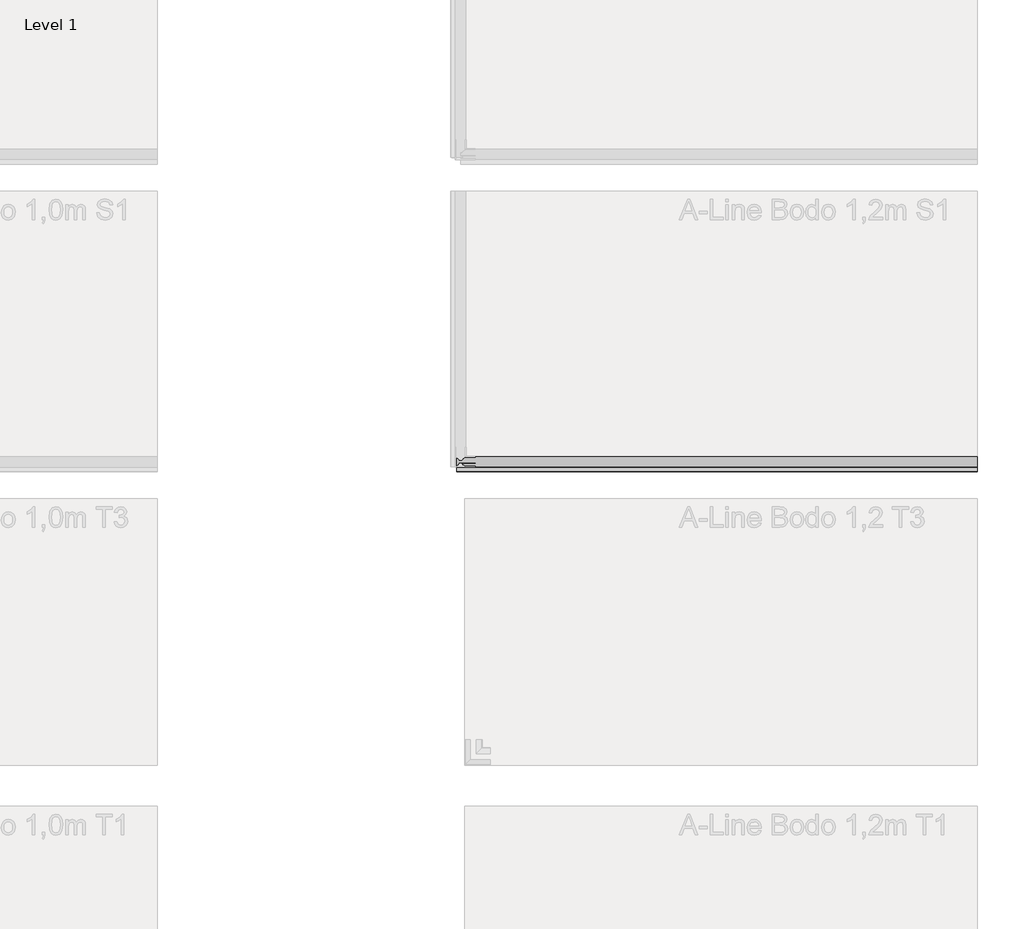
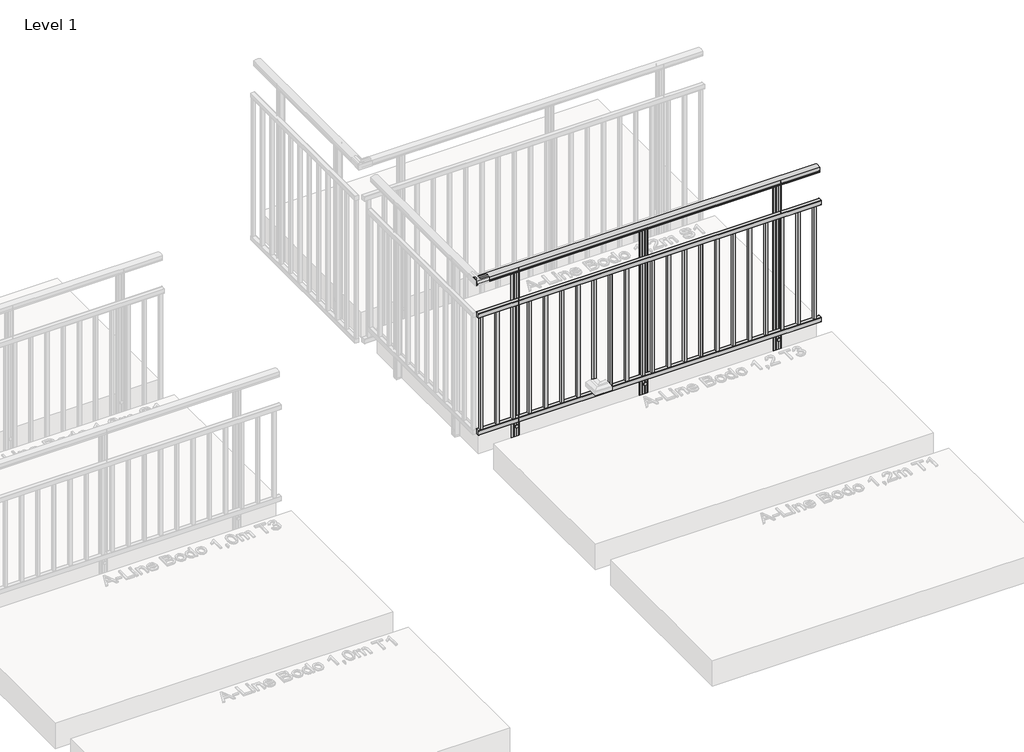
# One storey, part 5 of 66: 1 railing.
"""IFC4 building model written with IfcOpenShell, lengths in millimetres."""

import ifcopenshell
import ifcopenshell.guid

model = None  # the IFC model being written
_history = None  # IfcOwnerHistory: only IFC2X3 demands one
_inside = {}  # id of a spatial element -> (the spatial element, [elements in it])
_under = {}  # id of a project, library or spatial element -> (it, [spatial elements below it])
_declared = {}  # id of a project -> (the project, [libraries it declares])
_typed = {}  # id of a type object -> (the type object, [elements of that type])
_made_of = {}  # id of a material, layer set ... -> (it, [elements and type objects made of it])


def new_model(schema):
    """Start an empty IFC model of exactly this schema.

    Asked for "IFC4X3", IfcOpenShell would pick the latest addendum, in which some entities
    have other attributes; the version numbers below select the first issue.
    IFC2X3 requires an IfcOwnerHistory on every rooted entity: one is made here for all.
    """
    global model, _history
    if schema == "IFC4X3":
        model = ifcopenshell.file(schema_version=(4, 3, 0, 0))
    else:
        model = ifcopenshell.file(schema=schema)
    _inside.clear()
    _under.clear()
    _declared.clear()
    _typed.clear()
    _made_of.clear()
    _history = None
    if model.schema == "IFC2X3":
        org = make("IfcOrganization", Name="unknown")
        user = make(
            "IfcPersonAndOrganization",
            ThePerson=make("IfcPerson", FamilyName="unknown"),
            TheOrganization=org,
        )
        app = make(
            "IfcApplication",
            ApplicationDeveloper=org,
            Version="unknown",
            ApplicationFullName="unknown",
            ApplicationIdentifier="unknown",
        )
        _history = make(
            "IfcOwnerHistory",
            OwningUser=user,
            OwningApplication=app,
            ChangeAction="ADDED",
            CreationDate=0,
        )
    return model


def make(cls, **values):
    """One entity of the class cls with the attributes given. An attribute that is None is left unset."""
    return model.create_entity(
        cls, **{name: value for name, value in values.items() if value is not None}
    )


def rooted(cls, **values):
    """An entity with a GlobalId (a new one), such as an element, a storey or a relation."""
    return make(cls, GlobalId=ifcopenshell.guid.new(), OwnerHistory=_history, **values)


def si_unit(unit_type, name, prefix=None):
    """IfcSIUnit, for example si_unit("LENGTHUNIT", "METRE", prefix="MILLI")."""
    return make("IfcSIUnit", UnitType=unit_type, Prefix=prefix, Name=name)


def assignment(units):
    """IfcUnitAssignment: the units of a project."""
    return None if units is None else make("IfcUnitAssignment", Units=units)


def point(xyz):
    """IfcCartesianPoint."""
    return None if xyz is None else make("IfcCartesianPoint", Coordinates=xyz)


def direction(xyz):
    """IfcDirection."""
    return None if xyz is None else make("IfcDirection", DirectionRatios=xyz)


def frame(location, z_axis=None, x_axis=None):
    """IfcAxis2Placement3D, a coordinate frame: its origin and axes. An axis left out is left unset."""
    return make(
        "IfcAxis2Placement3D",
        Location=point(location),
        Axis=direction(z_axis),
        RefDirection=direction(x_axis),
    )


def frame_2d(location, x_axis=None):
    """IfcAxis2Placement2D, a coordinate frame in the plane: its origin and x axis."""
    return make(
        "IfcAxis2Placement2D", Location=point(location), RefDirection=direction(x_axis)
    )


def origin():
    """The frame at (0, 0, 0) with its axes left unset."""
    return frame((0.0, 0.0, 0.0))


def place(relative_to, where):
    """IfcLocalPlacement: puts the frame where relative to a parent placement (None: the world)."""
    return make(
        "IfcLocalPlacement", PlacementRelTo=relative_to, RelativePlacement=where
    )


def context(
    kind, dimensions, precision=None, world=None, true_north=None, identifier=None
):
    """IfcGeometricRepresentationContext, for example the 3D "Model" context."""
    return make(
        "IfcGeometricRepresentationContext",
        ContextIdentifier=identifier,
        ContextType=kind,
        CoordinateSpaceDimension=dimensions,
        Precision=precision,
        WorldCoordinateSystem=world,
        TrueNorth=true_north,
    )


def project(units=None, contexts=None):
    """IfcProject with its units and contexts."""
    return rooted(
        "IfcProject",
        Name="project",
        RepresentationContexts=contexts,
        UnitsInContext=assignment(units),
    )


def spatial(cls, under=None, at=None, **own):
    """A site, building, storey or space (cls), placed at a placement, below another one or the project."""
    s = rooted(cls, ObjectPlacement=at, **own)
    if under is not None:
        _under.setdefault(under.id(), (under, []))[1].append(s)
    return s


def polyline(points):
    """IfcPolyline through the points."""
    return make("IfcPolyline", Points=[point(p) for p in points])


def circle_curve(where, radius):
    """IfcCircle in the frame where."""
    return make("IfcCircle", Position=where, Radius=radius)


def trimmed(basis, trim1, trim2, sense, master):
    """IfcTrimmedCurve: the piece of a basis curve between two trims."""
    return make(
        "IfcTrimmedCurve",
        BasisCurve=basis,
        Trim1=trim1,
        Trim2=trim2,
        SenseAgreement=sense,
        MasterRepresentation=master,
    )


def segment(curve, same_sense, transition):
    """IfcCompositeCurveSegment."""
    return make(
        "IfcCompositeCurveSegment",
        Transition=transition,
        SameSense=same_sense,
        ParentCurve=curve,
    )


def composite_curve(segments, self_intersect=None):
    """IfcCompositeCurve: segments joined end to end."""
    return make("IfcCompositeCurve", Segments=segments, SelfIntersect=self_intersect)


def outline(outer, holes=None, kind="AREA"):
    """IfcArbitraryClosedProfileDef: a profile drawn as a closed curve; with holes, ...WithVoids."""
    if holes is None:
        return make("IfcArbitraryClosedProfileDef", ProfileType=kind, OuterCurve=outer)
    return make(
        "IfcArbitraryProfileDefWithVoids",
        ProfileType=kind,
        OuterCurve=outer,
        InnerCurves=holes,
    )


def extrude(swept, where, along, depth):
    """IfcExtrudedAreaSolid: the profile swept, set in the frame where, extruded along a direction by depth."""
    return make(
        "IfcExtrudedAreaSolid",
        SweptArea=swept,
        Position=where,
        ExtrudedDirection=direction(along),
        Depth=depth,
    )


def shape(context_of_items, identifier, shape_type, items):
    """IfcShapeRepresentation: the items that make up one representation, for example the "Body"."""
    return make(
        "IfcShapeRepresentation",
        ContextOfItems=context_of_items,
        RepresentationIdentifier=identifier,
        RepresentationType=shape_type,
        Items=items,
    )


def made_of(thing, what):
    """Note that an element or type object is made of a material, layer set ...; save() writes the relation."""
    if what is not None:
        _made_of.setdefault(what.id(), (what, []))[1].append(thing)
    return thing


def element(
    cls,
    number,
    at=None,
    inside=None,
    cuts=None,
    type_object=None,
    material=None,
    context=None,
    identifier="Body",
    shape_type=None,
    held_by="IfcProductDefinitionShape",
    body=None,
    shapes=None,
    **own,
):
    """One element of the class cls, such as IfcWall. Its Tag is "e" and its number.

    at: its placement. inside: the storey or other place that contains it. cuts: it is an
    opening in that element (IfcRelVoidsElement). A single representation is given by context,
    identifier, shape_type and body (its items); several are given by shapes. held_by: the class
    of the entity that holds the representations. save() writes the other relations.
    """
    e = rooted(cls, Tag="e%d" % number, ObjectPlacement=at, **own)
    if body is not None:
        shapes = [shape(context, identifier, shape_type, body)]
    if shapes is not None:
        e.Representation = make(held_by, Representations=shapes)
    if inside is not None:
        _inside.setdefault(inside.id(), (inside, []))[1].append(e)
    if cuts is not None:
        rooted(
            "IfcRelVoidsElement", RelatingBuildingElement=cuts, RelatedOpeningElement=e
        )
    if type_object is not None:
        _typed.setdefault(type_object.id(), (type_object, []))[1].append(e)
    return made_of(e, material)


def aggregate(whole, parts):
    """IfcRelAggregates: a whole, such as a stair, and the parts it consists of."""
    return rooted("IfcRelAggregates", RelatingObject=whole, RelatedObjects=parts)


def save(model, path):
    """Write the relations noted so far, then the file.

    IfcRelAggregates (storeys below a building ...), IfcRelContainedInSpatialStructure (elements
    in a storey), IfcRelDefinesByType, IfcRelAssociatesMaterial and IfcRelDeclares: one each for
    every whole, place, type object, material and project.
    """
    for whole, parts in _under.values():
        aggregate(whole, parts)
    for where, things in _inside.values():
        rooted(
            "IfcRelContainedInSpatialStructure",
            RelatedElements=things,
            RelatingStructure=where,
        )
    for kind, things in _typed.values():
        rooted("IfcRelDefinesByType", RelatedObjects=things, RelatingType=kind)
    for what, things in _made_of.values():
        rooted("IfcRelAssociatesMaterial", RelatedObjects=things, RelatingMaterial=what)
    for by, libraries in _declared.values():
        rooted("IfcRelDeclares", RelatingContext=by, RelatedDefinitions=libraries)
    model.write(path)


model = new_model("IFC4")

# Units and contexts
model_context = context("Model", 3, world=origin())
ifc_project = project(units=[si_unit("LENGTHUNIT", "METRE", prefix="MILLI")], contexts=[model_context])

# Site, building, storey
site = spatial("IfcSite", under=ifc_project)
building = spatial("IfcBuilding", under=site)
storey = spatial("IfcBuildingStorey", under=building, Name="Level 1", Elevation=0.0)

# Railing
placement = place(None, origin())
element("IfcRailing", 1, ObjectType="A-Line Bodo 1,2m S1", at=placement, inside=storey, context=model_context, shape_type="SweptSolid", body=[
    extrude(outline(composite_curve([segment(polyline([(-17565.1717719, 1194.1390059), (-17565.1717719, 1167.1990555), (-17565.7865549, 1166.5842725), (-17565.1717719, 1165.9694895), (-17565.1717719, 1157.2498847), (-17566.9315805, 1157.2498847), (-17566.9315805, 1180.4998829), (-17613.9266266, 1180.4998829), (-17613.9266266, 1157.2498847), (-17615.7315795, 1157.2498847), (-17615.7315795, 1165.8194895), (-17615.1094985, 1166.4415706), (-17615.6914302, 1167.0235023), (-17615.6914302, 1194.1342258)]), True, "CONTINUOUS"), segment(trimmed(circle_curve(frame_2d((-17590.4267322, 1142.6785502)), 57.3235687), [point((-17615.6914302, 1194.1342258))], [point((-17565.1717719, 1194.1390059))], False, "CARTESIAN"), True, "CONTINUOUS")], self_intersect=False)), frame((8464.0547322, 0.0, 0.0), z_axis=(1.0, 0.0, 0.0), x_axis=(0.0, 1.0, 0.0)), (0.0, 0.0, 1.0), 2540.0),
    extrude(outline(composite_curve([segment(trimmed(circle_curve(frame_2d((-17638.2613559, 949.0)), 1.0), [point((-17639.2613559, 949.0))], [point((-17638.2613559, 950.0))], False, "CARTESIAN"), True, "CONTINUOUS"), segment(polyline([(-17638.2613559, 950.0), (-17611.1613559, 950.0)]), True, "CONTINUOUS"), segment(trimmed(circle_curve(frame_2d((-17611.1613559, 949.0)), 1.0), [point((-17611.1613559, 950.0))], [point((-17610.1613559, 949.0))], False, "CARTESIAN"), True, "CONTINUOUS"), segment(polyline([(-17610.1613559, 949.0), (-17610.1613559, 916.8)]), True, "CONTINUOUS"), segment(trimmed(circle_curve(frame_2d((-17611.1613559, 916.8)), 1.0), [point((-17610.1613559, 916.8))], [point((-17611.1613559, 915.8))], False, "CARTESIAN"), True, "CONTINUOUS"), segment(polyline([(-17611.1613559, 915.8), (-17638.2613559, 915.8)]), True, "CONTINUOUS"), segment(trimmed(circle_curve(frame_2d((-17638.2613559, 916.8)), 1.0), [point((-17638.2613559, 915.8))], [point((-17639.2613559, 916.8))], False, "CARTESIAN"), True, "CONTINUOUS"), segment(polyline([(-17639.2613559, 916.8), (-17639.2613559, 949.0)]), True, "CONTINUOUS")], self_intersect=False)), frame((8464.0547322, 0.0, 0.0), z_axis=(1.0, 0.0, 0.0), x_axis=(0.0, 1.0, 0.0)), (0.0, 0.0, 1.0), 2540.0),
    extrude(outline(composite_curve([segment(polyline([(-17638.2613559, 34.2), (-17611.1613559, 34.2)]), True, "CONTINUOUS"), segment(trimmed(circle_curve(frame_2d((-17611.1613559, 33.2)), 1.0), [point((-17611.1613559, 34.2))], [point((-17610.1613559, 33.2))], False, "CARTESIAN"), True, "CONTINUOUS"), segment(polyline([(-17610.1613559, 33.2), (-17610.1613559, 1.0)]), True, "CONTINUOUS"), segment(trimmed(circle_curve(frame_2d((-17611.1613559, 1.0)), 1.0), [point((-17610.1613559, 1.0))], [point((-17611.1613559, 0.0))], False, "CARTESIAN"), True, "CONTINUOUS"), segment(polyline([(-17611.1613559, 0.0), (-17638.2613559, 0.0)]), True, "CONTINUOUS"), segment(trimmed(circle_curve(frame_2d((-17638.2613559, 1.0)), 1.0), [point((-17638.2613559, 0.0))], [point((-17639.2613559, 1.0))], False, "CARTESIAN"), True, "CONTINUOUS"), segment(polyline([(-17639.2613559, 1.0), (-17639.2613559, 33.2)]), True, "CONTINUOUS"), segment(trimmed(circle_curve(frame_2d((-17638.2613559, 33.2)), 1.0), [point((-17639.2613559, 33.2))], [point((-17638.2613559, 34.2))], False, "CARTESIAN"), True, "CONTINUOUS")], self_intersect=False)), frame((8464.0547322, 0.0, 0.0), z_axis=(1.0, 0.0, 0.0), x_axis=(0.0, 1.0, 0.0)), (0.0, 0.0, 1.0), 2540.0),
    extrude(outline(polyline([(10949.0547322, -17634.7113559), (10949.0547322, -17614.7113559), (10969.0547322, -17614.7113559), (10969.0547322, -17634.7113559), (10949.0547322, -17634.7113559)]), holes=[polyline([(10951.0547322, -17632.7113559), (10967.0547322, -17632.7113559), (10967.0547322, -17616.7113559), (10951.0547322, -17616.7113559), (10951.0547322, -17632.7113559)])]), frame((0.0, 0.0, 34.0), z_axis=(0.0, 0.0, 1.0), x_axis=(1.0, 0.0, 0.0)), (0.0, 0.0, 1.0), 882.0),
    extrude(outline(polyline([(10829.0547322, -17634.7113559), (10829.0547322, -17614.7113559), (10849.0547322, -17614.7113559), (10849.0547322, -17634.7113559), (10829.0547322, -17634.7113559)]), holes=[polyline([(10831.0547322, -17632.7113559), (10847.0547322, -17632.7113559), (10847.0547322, -17616.7113559), (10831.0547322, -17616.7113559), (10831.0547322, -17632.7113559)])]), frame((0.0, 0.0, 34.0), z_axis=(0.0, 0.0, 1.0), x_axis=(1.0, 0.0, 0.0)), (0.0, 0.0, 1.0), 882.0),
    extrude(outline(polyline([(10709.0547322, -17634.7113559), (10709.0547322, -17614.7113559), (10729.0547322, -17614.7113559), (10729.0547322, -17634.7113559), (10709.0547322, -17634.7113559)]), holes=[polyline([(10711.0547322, -17632.7113559), (10727.0547322, -17632.7113559), (10727.0547322, -17616.7113559), (10711.0547322, -17616.7113559), (10711.0547322, -17632.7113559)])]), frame((0.0, 0.0, 34.0), z_axis=(0.0, 0.0, 1.0), x_axis=(1.0, 0.0, 0.0)), (0.0, 0.0, 1.0), 882.0),
    extrude(outline(polyline([(10589.0547322, -17634.7113559), (10589.0547322, -17614.7113559), (10609.0547322, -17614.7113559), (10609.0547322, -17634.7113559), (10589.0547322, -17634.7113559)]), holes=[polyline([(10591.0547322, -17632.7113559), (10607.0547322, -17632.7113559), (10607.0547322, -17616.7113559), (10591.0547322, -17616.7113559), (10591.0547322, -17632.7113559)])]), frame((0.0, 0.0, 34.0), z_axis=(0.0, 0.0, 1.0), x_axis=(1.0, 0.0, 0.0)), (0.0, 0.0, 1.0), 882.0),
    extrude(outline(polyline([(10469.0547322, -17634.7113559), (10469.0547322, -17614.7113559), (10489.0547322, -17614.7113559), (10489.0547322, -17634.7113559), (10469.0547322, -17634.7113559)]), holes=[polyline([(10471.0547322, -17632.7113559), (10487.0547322, -17632.7113559), (10487.0547322, -17616.7113559), (10471.0547322, -17616.7113559), (10471.0547322, -17632.7113559)])]), frame((0.0, 0.0, 34.0), z_axis=(0.0, 0.0, 1.0), x_axis=(1.0, 0.0, 0.0)), (0.0, 0.0, 1.0), 882.0),
    extrude(outline(polyline([(10349.0547322, -17634.7113559), (10349.0547322, -17614.7113559), (10369.0547322, -17614.7113559), (10369.0547322, -17634.7113559), (10349.0547322, -17634.7113559)]), holes=[polyline([(10351.0547322, -17632.7113559), (10367.0547322, -17632.7113559), (10367.0547322, -17616.7113559), (10351.0547322, -17616.7113559), (10351.0547322, -17632.7113559)])]), frame((0.0, 0.0, 34.0), z_axis=(0.0, 0.0, 1.0), x_axis=(1.0, 0.0, 0.0)), (0.0, 0.0, 1.0), 882.0),
    extrude(outline(polyline([(10229.0547322, -17634.7113559), (10229.0547322, -17614.7113559), (10249.0547322, -17614.7113559), (10249.0547322, -17634.7113559), (10229.0547322, -17634.7113559)]), holes=[polyline([(10231.0547322, -17632.7113559), (10247.0547322, -17632.7113559), (10247.0547322, -17616.7113559), (10231.0547322, -17616.7113559), (10231.0547322, -17632.7113559)])]), frame((0.0, 0.0, 34.0), z_axis=(0.0, 0.0, 1.0), x_axis=(1.0, 0.0, 0.0)), (0.0, 0.0, 1.0), 882.0),
    extrude(outline(polyline([(10109.0547322, -17634.7113559), (10109.0547322, -17614.7113559), (10129.0547322, -17614.7113559), (10129.0547322, -17634.7113559), (10109.0547322, -17634.7113559)]), holes=[polyline([(10111.0547322, -17632.7113559), (10127.0547322, -17632.7113559), (10127.0547322, -17616.7113559), (10111.0547322, -17616.7113559), (10111.0547322, -17632.7113559)])]), frame((0.0, 0.0, 34.0), z_axis=(0.0, 0.0, 1.0), x_axis=(1.0, 0.0, 0.0)), (0.0, 0.0, 1.0), 882.0),
    extrude(outline(polyline([(9989.0547322, -17634.7113559), (9989.0547322, -17614.7113559), (10009.0547322, -17614.7113559), (10009.0547322, -17634.7113559), (9989.0547322, -17634.7113559)]), holes=[polyline([(9991.0547322, -17632.7113559), (10007.0547322, -17632.7113559), (10007.0547322, -17616.7113559), (9991.0547322, -17616.7113559), (9991.0547322, -17632.7113559)])]), frame((0.0, 0.0, 34.0), z_axis=(0.0, 0.0, 1.0), x_axis=(1.0, 0.0, 0.0)), (0.0, 0.0, 1.0), 882.0),
    extrude(outline(polyline([(9869.0547322, -17634.7113559), (9869.0547322, -17614.7113559), (9889.0547322, -17614.7113559), (9889.0547322, -17634.7113559), (9869.0547322, -17634.7113559)]), holes=[polyline([(9871.0547322, -17632.7113559), (9887.0547322, -17632.7113559), (9887.0547322, -17616.7113559), (9871.0547322, -17616.7113559), (9871.0547322, -17632.7113559)])]), frame((0.0, 0.0, 34.0), z_axis=(0.0, 0.0, 1.0), x_axis=(1.0, 0.0, 0.0)), (0.0, 0.0, 1.0), 882.0),
    extrude(outline(polyline([(9749.0547322, -17634.7113559), (9749.0547322, -17614.7113559), (9769.0547322, -17614.7113559), (9769.0547322, -17634.7113559), (9749.0547322, -17634.7113559)]), holes=[polyline([(9751.0547322, -17632.7113559), (9767.0547322, -17632.7113559), (9767.0547322, -17616.7113559), (9751.0547322, -17616.7113559), (9751.0547322, -17632.7113559)])]), frame((0.0, 0.0, 34.0), z_axis=(0.0, 0.0, 1.0), x_axis=(1.0, 0.0, 0.0)), (0.0, 0.0, 1.0), 882.0),
    extrude(outline(polyline([(9679.0547322, -17634.7113559), (9679.0547322, -17614.7113559), (9699.0547322, -17614.7113559), (9699.0547322, -17634.7113559), (9679.0547322, -17634.7113559)]), holes=[polyline([(9681.0547322, -17632.7113559), (9697.0547322, -17632.7113559), (9697.0547322, -17616.7113559), (9681.0547322, -17616.7113559), (9681.0547322, -17632.7113559)])]), frame((0.0, 0.0, 34.0), z_axis=(0.0, 0.0, 1.0), x_axis=(1.0, 0.0, 0.0)), (0.0, 0.0, 1.0), 882.0),
    extrude(outline(polyline([(9559.0547322, -17634.7113559), (9559.0547322, -17614.7113559), (9579.0547322, -17614.7113559), (9579.0547322, -17634.7113559), (9559.0547322, -17634.7113559)]), holes=[polyline([(9561.0547322, -17632.7113559), (9577.0547322, -17632.7113559), (9577.0547322, -17616.7113559), (9561.0547322, -17616.7113559), (9561.0547322, -17632.7113559)])]), frame((0.0, 0.0, 34.0), z_axis=(0.0, 0.0, 1.0), x_axis=(1.0, 0.0, 0.0)), (0.0, 0.0, 1.0), 882.0),
    extrude(outline(polyline([(9439.0547322, -17634.7113559), (9439.0547322, -17614.7113559), (9459.0547322, -17614.7113559), (9459.0547322, -17634.7113559), (9439.0547322, -17634.7113559)]), holes=[polyline([(9441.0547322, -17632.7113559), (9457.0547322, -17632.7113559), (9457.0547322, -17616.7113559), (9441.0547322, -17616.7113559), (9441.0547322, -17632.7113559)])]), frame((0.0, 0.0, 34.0), z_axis=(0.0, 0.0, 1.0), x_axis=(1.0, 0.0, 0.0)), (0.0, 0.0, 1.0), 882.0),
    extrude(outline(polyline([(9319.0547322, -17634.7113559), (9319.0547322, -17614.7113559), (9339.0547322, -17614.7113559), (9339.0547322, -17634.7113559), (9319.0547322, -17634.7113559)]), holes=[polyline([(9321.0547322, -17632.7113559), (9337.0547322, -17632.7113559), (9337.0547322, -17616.7113559), (9321.0547322, -17616.7113559), (9321.0547322, -17632.7113559)])]), frame((0.0, 0.0, 34.0), z_axis=(0.0, 0.0, 1.0), x_axis=(1.0, 0.0, 0.0)), (0.0, 0.0, 1.0), 882.0),
    extrude(outline(polyline([(9199.0547322, -17634.7113559), (9199.0547322, -17614.7113559), (9219.0547322, -17614.7113559), (9219.0547322, -17634.7113559), (9199.0547322, -17634.7113559)]), holes=[polyline([(9201.0547322, -17632.7113559), (9217.0547322, -17632.7113559), (9217.0547322, -17616.7113559), (9201.0547322, -17616.7113559), (9201.0547322, -17632.7113559)])]), frame((0.0, 0.0, 34.0), z_axis=(0.0, 0.0, 1.0), x_axis=(1.0, 0.0, 0.0)), (0.0, 0.0, 1.0), 882.0),
    extrude(outline(polyline([(9079.0547322, -17634.7113559), (9079.0547322, -17614.7113559), (9099.0547322, -17614.7113559), (9099.0547322, -17634.7113559), (9079.0547322, -17634.7113559)]), holes=[polyline([(9081.0547322, -17632.7113559), (9097.0547322, -17632.7113559), (9097.0547322, -17616.7113559), (9081.0547322, -17616.7113559), (9081.0547322, -17632.7113559)])]), frame((0.0, 0.0, 34.0), z_axis=(0.0, 0.0, 1.0), x_axis=(1.0, 0.0, 0.0)), (0.0, 0.0, 1.0), 882.0),
    extrude(outline(polyline([(8959.0547322, -17634.7113559), (8959.0547322, -17614.7113559), (8979.0547322, -17614.7113559), (8979.0547322, -17634.7113559), (8959.0547322, -17634.7113559)]), holes=[polyline([(8961.0547322, -17632.7113559), (8977.0547322, -17632.7113559), (8977.0547322, -17616.7113559), (8961.0547322, -17616.7113559), (8961.0547322, -17632.7113559)])]), frame((0.0, 0.0, 34.0), z_axis=(0.0, 0.0, 1.0), x_axis=(1.0, 0.0, 0.0)), (0.0, 0.0, 1.0), 882.0),
    extrude(outline(polyline([(8839.0547322, -17634.7113559), (8839.0547322, -17614.7113559), (8859.0547322, -17614.7113559), (8859.0547322, -17634.7113559), (8839.0547322, -17634.7113559)]), holes=[polyline([(8841.0547322, -17632.7113559), (8857.0547322, -17632.7113559), (8857.0547322, -17616.7113559), (8841.0547322, -17616.7113559), (8841.0547322, -17632.7113559)])]), frame((0.0, 0.0, 34.0), z_axis=(0.0, 0.0, 1.0), x_axis=(1.0, 0.0, 0.0)), (0.0, 0.0, 1.0), 882.0),
    extrude(outline(polyline([(8719.0547322, -17634.7113559), (8719.0547322, -17614.7113559), (8739.0547322, -17614.7113559), (8739.0547322, -17634.7113559), (8719.0547322, -17634.7113559)]), holes=[polyline([(8721.0547322, -17632.7113559), (8737.0547322, -17632.7113559), (8737.0547322, -17616.7113559), (8721.0547322, -17616.7113559), (8721.0547322, -17632.7113559)])]), frame((0.0, 0.0, 34.0), z_axis=(0.0, 0.0, 1.0), x_axis=(1.0, 0.0, 0.0)), (0.0, 0.0, 1.0), 882.0),
    extrude(outline(polyline([(8599.0547322, -17634.7113559), (8599.0547322, -17614.7113559), (8619.0547322, -17614.7113559), (8619.0547322, -17634.7113559), (8599.0547322, -17634.7113559)]), holes=[polyline([(8601.0547322, -17632.7113559), (8617.0547322, -17632.7113559), (8617.0547322, -17616.7113559), (8601.0547322, -17616.7113559), (8601.0547322, -17632.7113559)])]), frame((0.0, 0.0, 34.0), z_axis=(0.0, 0.0, 1.0), x_axis=(1.0, 0.0, 0.0)), (0.0, 0.0, 1.0), 882.0),
    extrude(outline(polyline([(8479.0547322, -17634.7113559), (8479.0547322, -17614.7113559), (8499.0547322, -17614.7113559), (8499.0547322, -17634.7113559), (8479.0547322, -17634.7113559)]), holes=[polyline([(8481.0547322, -17632.7113559), (8497.0547322, -17632.7113559), (8497.0547322, -17616.7113559), (8481.0547322, -17616.7113559), (8481.0547322, -17632.7113559)])]), frame((0.0, 0.0, 34.0), z_axis=(0.0, 0.0, 1.0), x_axis=(1.0, 0.0, 0.0)), (0.0, 0.0, 1.0), 882.0),
    extrude(outline(composite_curve([segment(polyline([(9714.8575193, -17569.7113559), (9731.8808192, -17569.7113559)]), True, "CONTINUOUS"), segment(trimmed(circle_curve(frame_2d((9731.8808192, -17571.885269)), 2.173913), [point((9731.8808192, -17569.7113559))], [point((9734.0547322, -17571.885269))], False, "CARTESIAN"), True, "CONTINUOUS"), segment(polyline([(9734.0547322, -17571.885269), (9734.0547322, -17607.5374429)]), True, "CONTINUOUS"), segment(trimmed(circle_curve(frame_2d((9731.8808192, -17607.5374429)), 2.173913), [point((9734.0547322, -17607.5374429))], [point((9731.8808192, -17609.7113559))], False, "CARTESIAN"), True, "CONTINUOUS"), segment(polyline([(9731.8808192, -17609.7113559), (9714.8225694, -17609.676406), (9714.0547322, -17608.9085689), (9713.2868951, -17609.676406), (9696.2286453, -17609.7113559)]), True, "CONTINUOUS"), segment(trimmed(circle_curve(frame_2d((9696.2286453, -17607.5374429)), 2.173913), [point((9696.2286453, -17609.7113559))], [point((9694.0547322, -17607.5374429))], False, "CARTESIAN"), True, "CONTINUOUS"), segment(polyline([(9694.0547322, -17607.5374429), (9694.0547322, -17571.885269)]), True, "CONTINUOUS"), segment(trimmed(circle_curve(frame_2d((9696.2286453, -17571.885269)), 2.173913), [point((9694.0547322, -17571.885269))], [point((9696.2286452, -17569.7113559))], False, "CARTESIAN"), True, "CONTINUOUS"), segment(polyline([(9696.2286452, -17569.7113559), (9713.2868951, -17569.7463058), (9714.0547322, -17570.5141429), (9714.8575193, -17569.7113559)]), True, "CONTINUOUS")], self_intersect=False)), frame((0.0, 0.0, -200.0), z_axis=(0.0, 0.0, 1.0), x_axis=(1.0, 0.0, 0.0)), (0.0, 0.0, 1.0), 10.0),
    extrude(outline(composite_curve([segment(trimmed(circle_curve(frame_2d((0.0, 12.0)), 12.0), [point((0.0, 23.9999999))], [point((0.0, 0.0))], False, "CARTESIAN"), True, "CONTINUOUS"), segment(trimmed(circle_curve(frame_2d((0.0, 12.0)), 12.0), [point((0.0, 0.0))], [point((0.0, 23.9999999))], False, "CARTESIAN"), True, "CONTINUOUS")], self_intersect=False)), frame((9702.0444554, -17612.7751851, -151.0), z_axis=(0.00040291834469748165, 0.9999999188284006, 0.0), x_axis=(0.0, 0.0, 1.0)), (0.0, 0.0, 1.0), 3.0757477),
    extrude(outline(composite_curve([segment(trimmed(circle_curve(frame_2d((0.0, 12.0)), 12.0), [point((0.0, 23.9999999))], [point((0.0, 0.0))], False, "CARTESIAN"), True, "CONTINUOUS"), segment(trimmed(circle_curve(frame_2d((0.0, 12.0)), 12.0), [point((0.0, 0.0))], [point((0.0, 23.9999999))], False, "CARTESIAN"), True, "CONTINUOUS")], self_intersect=False)), frame((9702.0444554, -17612.7751851, -50.0), z_axis=(0.00040291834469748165, 0.9999999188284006, 0.0), x_axis=(0.0, 0.0, 1.0)), (0.0, 0.0, 1.0), 3.0757477),
    extrude(outline(composite_curve([segment(trimmed(circle_curve(frame_2d((9696.2286453, -17571.885269)), 2.173913), [point((9694.0547322, -17571.885269))], [point((9696.2286453, -17569.7113559))], False, "CARTESIAN"), True, "CONTINUOUS"), segment(polyline([(9696.2286453, -17569.7113559), (9713.2868951, -17569.7463058), (9714.185167, -17570.1143102), (9714.9530042, -17569.7113559), (9731.8808192, -17569.7113559)]), True, "CONTINUOUS"), segment(trimmed(circle_curve(frame_2d((9731.8808192, -17571.885269)), 2.173913), [point((9731.8808192, -17569.7113559))], [point((9734.0547322, -17571.885269))], False, "CARTESIAN"), True, "CONTINUOUS"), segment(polyline([(9734.0547322, -17571.885269), (9734.0547322, -17607.5374429)]), True, "CONTINUOUS"), segment(trimmed(circle_curve(frame_2d((9731.8808192, -17607.5374429)), 2.173913), [point((9734.0547322, -17607.5374429))], [point((9731.8808192, -17609.7113559))], False, "CARTESIAN"), True, "CONTINUOUS"), segment(polyline([(9731.8808192, -17609.7113559), (9714.8225694, -17609.676406), (9714.0547322, -17608.9085689), (9713.2868951, -17609.676406), (9696.2286453, -17609.7113559)]), True, "CONTINUOUS"), segment(trimmed(circle_curve(frame_2d((9696.2286453, -17607.5374429)), 2.173913), [point((9696.2286453, -17609.7113559))], [point((9694.0547322, -17607.5374429))], False, "CARTESIAN"), True, "CONTINUOUS"), segment(polyline([(9694.0547322, -17607.5374429), (9694.0547322, -17571.885269)]), True, "CONTINUOUS")], self_intersect=False), holes=[composite_curve([segment(polyline([(9697.5329931, -17574.059182), (9697.5329931, -17605.3635298)]), True, "CONTINUOUS"), segment(trimmed(circle_curve(frame_2d((9698.4025583, -17605.3635298)), 0.8695652), [point((9697.5329931, -17605.3635298))], [point((9698.4025583, -17606.233095))], True, "CARTESIAN"), True, "CONTINUOUS"), segment(polyline([(9698.4025583, -17606.233095), (9729.7069062, -17606.233095)]), True, "CONTINUOUS"), segment(trimmed(circle_curve(frame_2d((9729.7069062, -17605.3635298)), 0.8695652), [point((9729.7069062, -17606.233095))], [point((9730.5764714, -17605.3635298))], True, "CARTESIAN"), True, "CONTINUOUS"), segment(polyline([(9730.5764714, -17605.3635298), (9730.5764714, -17574.059182)]), True, "CONTINUOUS"), segment(trimmed(circle_curve(frame_2d((9729.7069062, -17574.059182)), 0.8695652), [point((9730.5764714, -17574.059182))], [point((9729.7069062, -17573.1896168))], True, "CARTESIAN"), True, "CONTINUOUS"), segment(polyline([(9729.7069062, -17573.1896168), (9698.4025583, -17573.1896168)]), True, "CONTINUOUS"), segment(trimmed(circle_curve(frame_2d((9698.4025583, -17574.059182)), 0.8695652), [point((9698.4025583, -17573.1896168))], [point((9697.5329931, -17574.059182))], True, "CARTESIAN"), True, "CONTINUOUS")], self_intersect=False)]), frame((0.0, 0.0, -190.0), z_axis=(0.0, 0.0, 1.0), x_axis=(1.0, 0.0, 0.0)), (0.0, 0.0, 1.0), 1370.0),
    extrude(outline(composite_curve([segment(polyline([(10704.8575193, -17569.7113559), (10721.8808192, -17569.7113559)]), True, "CONTINUOUS"), segment(trimmed(circle_curve(frame_2d((10721.8808192, -17571.885269)), 2.173913), [point((10721.8808192, -17569.7113559))], [point((10724.0547322, -17571.885269))], False, "CARTESIAN"), True, "CONTINUOUS"), segment(polyline([(10724.0547322, -17571.885269), (10724.0547322, -17607.5374429)]), True, "CONTINUOUS"), segment(trimmed(circle_curve(frame_2d((10721.8808192, -17607.5374429)), 2.173913), [point((10724.0547322, -17607.5374429))], [point((10721.8808192, -17609.7113559))], False, "CARTESIAN"), True, "CONTINUOUS"), segment(polyline([(10721.8808192, -17609.7113559), (10704.8225694, -17609.676406), (10704.0547322, -17608.9085689), (10703.2868951, -17609.676406), (10686.2286453, -17609.7113559)]), True, "CONTINUOUS"), segment(trimmed(circle_curve(frame_2d((10686.2286453, -17607.5374429)), 2.173913), [point((10686.2286453, -17609.7113559))], [point((10684.0547322, -17607.5374429))], False, "CARTESIAN"), True, "CONTINUOUS"), segment(polyline([(10684.0547322, -17607.5374429), (10684.0547322, -17571.885269)]), True, "CONTINUOUS"), segment(trimmed(circle_curve(frame_2d((10686.2286453, -17571.885269)), 2.173913), [point((10684.0547322, -17571.885269))], [point((10686.2286452, -17569.7113559))], False, "CARTESIAN"), True, "CONTINUOUS"), segment(polyline([(10686.2286452, -17569.7113559), (10703.2868951, -17569.7463058), (10704.0547322, -17570.5141429), (10704.8575193, -17569.7113559)]), True, "CONTINUOUS")], self_intersect=False)), frame((0.0, 0.0, -200.0), z_axis=(0.0, 0.0, 1.0), x_axis=(1.0, 0.0, 0.0)), (0.0, 0.0, 1.0), 10.0),
    extrude(outline(composite_curve([segment(trimmed(circle_curve(frame_2d((0.0, 12.0)), 12.0), [point((0.0, 23.9999999))], [point((0.0, 0.0))], False, "CARTESIAN"), True, "CONTINUOUS"), segment(trimmed(circle_curve(frame_2d((0.0, 12.0)), 12.0), [point((0.0, 0.0))], [point((0.0, 23.9999999))], False, "CARTESIAN"), True, "CONTINUOUS")], self_intersect=False)), frame((10692.0444554, -17612.7751851, -151.0), z_axis=(0.00040291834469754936, 0.9999999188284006, 0.0), x_axis=(0.0, 0.0, 1.0)), (0.0, 0.0, 1.0), 3.0757477),
    extrude(outline(composite_curve([segment(trimmed(circle_curve(frame_2d((0.0, 12.0)), 12.0), [point((0.0, 23.9999999))], [point((0.0, 0.0))], False, "CARTESIAN"), True, "CONTINUOUS"), segment(trimmed(circle_curve(frame_2d((0.0, 12.0)), 12.0), [point((0.0, 0.0))], [point((0.0, 23.9999999))], False, "CARTESIAN"), True, "CONTINUOUS")], self_intersect=False)), frame((10692.0444554, -17612.7751851, -50.0), z_axis=(0.00040291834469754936, 0.9999999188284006, 0.0), x_axis=(0.0, 0.0, 1.0)), (0.0, 0.0, 1.0), 3.0757477),
    extrude(outline(composite_curve([segment(trimmed(circle_curve(frame_2d((10686.2286453, -17571.885269)), 2.173913), [point((10684.0547322, -17571.885269))], [point((10686.2286453, -17569.7113559))], False, "CARTESIAN"), True, "CONTINUOUS"), segment(polyline([(10686.2286453, -17569.7113559), (10703.2868951, -17569.7463058), (10704.185167, -17570.1143102), (10704.9530042, -17569.7113559), (10721.8808192, -17569.7113559)]), True, "CONTINUOUS"), segment(trimmed(circle_curve(frame_2d((10721.8808192, -17571.885269)), 2.173913), [point((10721.8808192, -17569.7113559))], [point((10724.0547322, -17571.885269))], False, "CARTESIAN"), True, "CONTINUOUS"), segment(polyline([(10724.0547322, -17571.885269), (10724.0547322, -17607.5374429)]), True, "CONTINUOUS"), segment(trimmed(circle_curve(frame_2d((10721.8808192, -17607.5374429)), 2.173913), [point((10724.0547322, -17607.5374429))], [point((10721.8808192, -17609.7113559))], False, "CARTESIAN"), True, "CONTINUOUS"), segment(polyline([(10721.8808192, -17609.7113559), (10704.8225694, -17609.676406), (10704.0547322, -17608.9085689), (10703.2868951, -17609.676406), (10686.2286453, -17609.7113559)]), True, "CONTINUOUS"), segment(trimmed(circle_curve(frame_2d((10686.2286453, -17607.5374429)), 2.173913), [point((10686.2286453, -17609.7113559))], [point((10684.0547322, -17607.5374429))], False, "CARTESIAN"), True, "CONTINUOUS"), segment(polyline([(10684.0547322, -17607.5374429), (10684.0547322, -17571.885269)]), True, "CONTINUOUS")], self_intersect=False), holes=[composite_curve([segment(polyline([(10687.5329931, -17574.059182), (10687.5329931, -17605.3635298)]), True, "CONTINUOUS"), segment(trimmed(circle_curve(frame_2d((10688.4025583, -17605.3635298)), 0.8695652), [point((10687.5329931, -17605.3635298))], [point((10688.4025583, -17606.233095))], True, "CARTESIAN"), True, "CONTINUOUS"), segment(polyline([(10688.4025583, -17606.233095), (10719.7069062, -17606.233095)]), True, "CONTINUOUS"), segment(trimmed(circle_curve(frame_2d((10719.7069062, -17605.3635298)), 0.8695652), [point((10719.7069062, -17606.233095))], [point((10720.5764714, -17605.3635298))], True, "CARTESIAN"), True, "CONTINUOUS"), segment(polyline([(10720.5764714, -17605.3635298), (10720.5764714, -17574.059182)]), True, "CONTINUOUS"), segment(trimmed(circle_curve(frame_2d((10719.7069062, -17574.059182)), 0.8695652), [point((10720.5764714, -17574.059182))], [point((10719.7069062, -17573.1896168))], True, "CARTESIAN"), True, "CONTINUOUS"), segment(polyline([(10719.7069062, -17573.1896168), (10688.4025583, -17573.1896168)]), True, "CONTINUOUS"), segment(trimmed(circle_curve(frame_2d((10688.4025583, -17574.059182)), 0.8695652), [point((10688.4025583, -17573.1896168))], [point((10687.5329931, -17574.059182))], True, "CARTESIAN"), True, "CONTINUOUS")], self_intersect=False)]), frame((0.0, 0.0, -190.0), z_axis=(0.0, 0.0, 1.0), x_axis=(1.0, 0.0, 0.0)), (0.0, 0.0, 1.0), 1371.0),
    extrude(outline(composite_curve([segment(polyline([(8764.8575193, -17569.7113559), (8781.8808192, -17569.7113559)]), True, "CONTINUOUS"), segment(trimmed(circle_curve(frame_2d((8781.8808192, -17571.885269)), 2.173913), [point((8781.8808192, -17569.7113559))], [point((8784.0547322, -17571.885269))], False, "CARTESIAN"), True, "CONTINUOUS"), segment(polyline([(8784.0547322, -17571.885269), (8784.0547322, -17607.5374429)]), True, "CONTINUOUS"), segment(trimmed(circle_curve(frame_2d((8781.8808192, -17607.5374429)), 2.173913), [point((8784.0547322, -17607.5374429))], [point((8781.8808192, -17609.7113559))], False, "CARTESIAN"), True, "CONTINUOUS"), segment(polyline([(8781.8808192, -17609.7113559), (8764.8225694, -17609.676406), (8764.0547322, -17608.9085689), (8763.2868951, -17609.676406), (8746.2286453, -17609.7113559)]), True, "CONTINUOUS"), segment(trimmed(circle_curve(frame_2d((8746.2286453, -17607.5374429)), 2.173913), [point((8746.2286453, -17609.7113559))], [point((8744.0547322, -17607.5374429))], False, "CARTESIAN"), True, "CONTINUOUS"), segment(polyline([(8744.0547322, -17607.5374429), (8744.0547322, -17571.885269)]), True, "CONTINUOUS"), segment(trimmed(circle_curve(frame_2d((8746.2286453, -17571.885269)), 2.173913), [point((8744.0547322, -17571.885269))], [point((8746.2286452, -17569.7113559))], False, "CARTESIAN"), True, "CONTINUOUS"), segment(polyline([(8746.2286452, -17569.7113559), (8763.2868951, -17569.7463058), (8764.0547322, -17570.5141429), (8764.8575193, -17569.7113559)]), True, "CONTINUOUS")], self_intersect=False)), frame((0.0, 0.0, -200.0), z_axis=(0.0, 0.0, 1.0), x_axis=(1.0, 0.0, 0.0)), (0.0, 0.0, 1.0), 10.0),
    extrude(outline(composite_curve([segment(trimmed(circle_curve(frame_2d((0.0, 12.0)), 12.0), [point((0.0, 23.9999999))], [point((0.0, 0.0))], False, "CARTESIAN"), True, "CONTINUOUS"), segment(trimmed(circle_curve(frame_2d((0.0, 12.0)), 12.0), [point((0.0, 0.0))], [point((0.0, 23.9999999))], False, "CARTESIAN"), True, "CONTINUOUS")], self_intersect=False)), frame((8752.0444554, -17612.7751851, -151.0), z_axis=(0.00040291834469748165, 0.9999999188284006, 0.0), x_axis=(0.0, 0.0, 1.0)), (0.0, 0.0, 1.0), 3.0757477),
    extrude(outline(composite_curve([segment(trimmed(circle_curve(frame_2d((0.0, 12.0)), 12.0), [point((0.0, 23.9999999))], [point((0.0, 0.0))], False, "CARTESIAN"), True, "CONTINUOUS"), segment(trimmed(circle_curve(frame_2d((0.0, 12.0)), 12.0), [point((0.0, 0.0))], [point((0.0, 23.9999999))], False, "CARTESIAN"), True, "CONTINUOUS")], self_intersect=False)), frame((8752.0444554, -17612.7751851, -50.0), z_axis=(0.00040291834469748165, 0.9999999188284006, 0.0), x_axis=(0.0, 0.0, 1.0)), (0.0, 0.0, 1.0), 3.0757477),
    extrude(outline(composite_curve([segment(trimmed(circle_curve(frame_2d((8746.2286453, -17571.885269)), 2.173913), [point((8744.0547322, -17571.885269))], [point((8746.2286453, -17569.7113559))], False, "CARTESIAN"), True, "CONTINUOUS"), segment(polyline([(8746.2286453, -17569.7113559), (8763.2868951, -17569.7463058), (8764.185167, -17570.1143102), (8764.9530042, -17569.7113559), (8781.8808192, -17569.7113559)]), True, "CONTINUOUS"), segment(trimmed(circle_curve(frame_2d((8781.8808192, -17571.885269)), 2.173913), [point((8781.8808192, -17569.7113559))], [point((8784.0547322, -17571.885269))], False, "CARTESIAN"), True, "CONTINUOUS"), segment(polyline([(8784.0547322, -17571.885269), (8784.0547322, -17607.5374429)]), True, "CONTINUOUS"), segment(trimmed(circle_curve(frame_2d((8781.8808192, -17607.5374429)), 2.173913), [point((8784.0547322, -17607.5374429))], [point((8781.8808192, -17609.7113559))], False, "CARTESIAN"), True, "CONTINUOUS"), segment(polyline([(8781.8808192, -17609.7113559), (8764.8225694, -17609.676406), (8764.0547322, -17608.9085689), (8763.2868951, -17609.676406), (8746.2286453, -17609.7113559)]), True, "CONTINUOUS"), segment(trimmed(circle_curve(frame_2d((8746.2286453, -17607.5374429)), 2.173913), [point((8746.2286453, -17609.7113559))], [point((8744.0547322, -17607.5374429))], False, "CARTESIAN"), True, "CONTINUOUS"), segment(polyline([(8744.0547322, -17607.5374429), (8744.0547322, -17571.885269)]), True, "CONTINUOUS")], self_intersect=False), holes=[composite_curve([segment(polyline([(8747.5329931, -17574.059182), (8747.5329931, -17605.3635298)]), True, "CONTINUOUS"), segment(trimmed(circle_curve(frame_2d((8748.4025583, -17605.3635298)), 0.8695652), [point((8747.5329931, -17605.3635298))], [point((8748.4025583, -17606.233095))], True, "CARTESIAN"), True, "CONTINUOUS"), segment(polyline([(8748.4025583, -17606.233095), (8779.7069062, -17606.233095)]), True, "CONTINUOUS"), segment(trimmed(circle_curve(frame_2d((8779.7069062, -17605.3635298)), 0.8695652), [point((8779.7069062, -17606.233095))], [point((8780.5764714, -17605.3635298))], True, "CARTESIAN"), True, "CONTINUOUS"), segment(polyline([(8780.5764714, -17605.3635298), (8780.5764714, -17574.059182)]), True, "CONTINUOUS"), segment(trimmed(circle_curve(frame_2d((8779.7069062, -17574.059182)), 0.8695652), [point((8780.5764714, -17574.059182))], [point((8779.7069062, -17573.1896168))], True, "CARTESIAN"), True, "CONTINUOUS"), segment(polyline([(8779.7069062, -17573.1896168), (8748.4025583, -17573.1896168)]), True, "CONTINUOUS"), segment(trimmed(circle_curve(frame_2d((8748.4025583, -17574.059182)), 0.8695652), [point((8748.4025583, -17573.1896168))], [point((8747.5329931, -17574.059182))], True, "CARTESIAN"), True, "CONTINUOUS")], self_intersect=False)]), frame((0.0, 0.0, -190.0), z_axis=(0.0, 0.0, 1.0), x_axis=(1.0, 0.0, 0.0)), (0.0, 0.0, 1.0), 1371.0),
])

save(model, "model.ifc")
